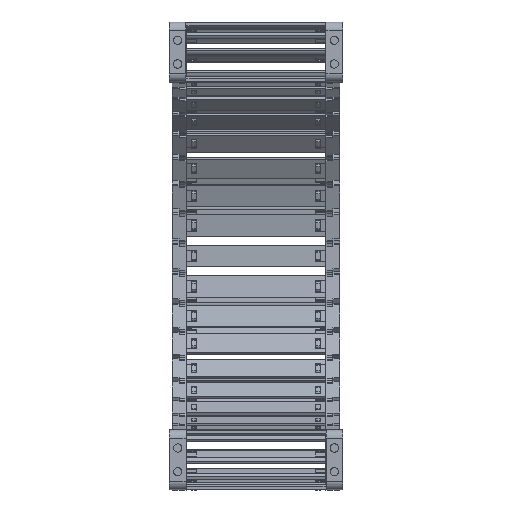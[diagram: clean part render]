
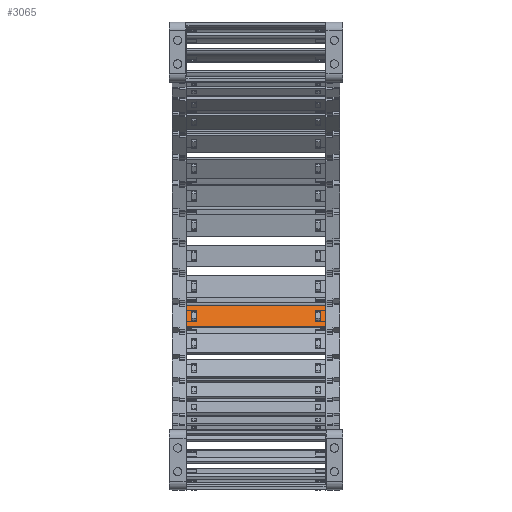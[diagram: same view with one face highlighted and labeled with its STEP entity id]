
A CAD part, left-side view. The second image highlights one B-rep face of the part: STEP entity #3065.
In plain terms, the highlighted planar face has unit normal (-0.94, 0, 0.342) as drawn and (0, 1, 0) by its records, which use the part's own axes.
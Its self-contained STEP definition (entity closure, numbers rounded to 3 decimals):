
#2485=DIRECTION('',(0.,0.,1.));
#2486=VECTOR('',#2485,15.8);
#2487=CARTESIAN_POINT('',(85.74,1.5,-7.9));
#2488=LINE('',#2487,#2486);
#2489=DIRECTION('',(-1.,0.,0.));
#2490=VECTOR('',#2489,100.5);
#2491=CARTESIAN_POINT('',(85.74,1.5,7.9));
#2492=LINE('',#2491,#2490);
#2493=DIRECTION('',(0.,0.,-1.));
#2494=VECTOR('',#2493,15.8);
#2495=CARTESIAN_POINT('',(-14.76,1.5,7.9));
#2496=LINE('',#2495,#2494);
#2497=DIRECTION('',(1.,0.,0.));
#2498=VECTOR('',#2497,3.648);
#2499=CARTESIAN_POINT('',(78.122,1.5,4.075));
#2500=LINE('',#2499,#2498);
#2501=DIRECTION('',(0.,0.,-1.));
#2502=VECTOR('',#2501,8.15);
#2503=CARTESIAN_POINT('',(81.77,1.5,4.075));
#2504=LINE('',#2503,#2502);
#2505=DIRECTION('',(-1.,0.,0.));
#2506=VECTOR('',#2505,3.648);
#2507=CARTESIAN_POINT('',(81.77,1.5,-4.075));
#2508=LINE('',#2507,#2506);
#2509=DIRECTION('',(0.,0.,-1.));
#2510=VECTOR('',#2509,8.15);
#2511=CARTESIAN_POINT('',(-7.142,1.5,4.075));
#2512=LINE('',#2511,#2510);
#2513=DIRECTION('',(-1.,0.,0.));
#2514=VECTOR('',#2513,3.648);
#2515=CARTESIAN_POINT('',(-7.142,1.5,-4.075));
#2516=LINE('',#2515,#2514);
#2517=DIRECTION('',(0.,0.,1.));
#2518=VECTOR('',#2517,8.15);
#2519=CARTESIAN_POINT('',(-10.79,1.5,-4.075));
#2520=LINE('',#2519,#2518);
#2521=DIRECTION('',(1.,0.,0.));
#2522=VECTOR('',#2521,3.648);
#2523=CARTESIAN_POINT('',(-10.79,1.5,4.075));
#2524=LINE('',#2523,#2522);
#2529=DIRECTION('',(-1.,0.,0.));
#2530=VECTOR('',#2529,100.5);
#2531=CARTESIAN_POINT('',(85.74,1.5,-7.9));
#2532=LINE('',#2531,#2530);
#2650=DIRECTION('',(0.,0.,-1.));
#2651=VECTOR('',#2650,8.15);
#2652=CARTESIAN_POINT('',(78.122,1.5,4.075));
#2653=LINE('',#2652,#2651);
#2835=CARTESIAN_POINT('',(81.77,1.5,4.075));
#2836=VERTEX_POINT('',#2835);
#2837=CARTESIAN_POINT('',(78.122,1.5,4.075));
#2838=VERTEX_POINT('',#2837);
#2879=CARTESIAN_POINT('',(78.122,1.5,-4.075));
#2880=VERTEX_POINT('',#2879);
#2881=CARTESIAN_POINT('',(81.77,1.5,-4.075));
#2882=VERTEX_POINT('',#2881);
#2883=CARTESIAN_POINT('',(85.74,1.5,7.9));
#2885=VERTEX_POINT('',#2883);
#2887=CARTESIAN_POINT('',(85.74,1.5,-7.9));
#2888=VERTEX_POINT('',#2887);
#2911=CARTESIAN_POINT('',(-7.142,1.5,4.075));
#2912=CARTESIAN_POINT('',(-7.142,1.5,-4.075));
#2913=VERTEX_POINT('',#2911);
#2914=VERTEX_POINT('',#2912);
#2915=CARTESIAN_POINT('',(-10.79,1.5,-4.075));
#2916=VERTEX_POINT('',#2915);
#2917=CARTESIAN_POINT('',(-10.79,1.5,4.075));
#2918=VERTEX_POINT('',#2917);
#2919=CARTESIAN_POINT('',(-14.76,1.5,7.9));
#2920=VERTEX_POINT('',#2919);
#2923=CARTESIAN_POINT('',(-14.76,1.5,-7.9));
#2924=VERTEX_POINT('',#2923);
#3034=CARTESIAN_POINT('',(117.48,1.5,10.061));
#3035=DIRECTION('',(0.,-1.,0.));
#3036=DIRECTION('',(0.,0.,-1.));
#3037=AXIS2_PLACEMENT_3D('',#3034,#3035,#3036);
#3038=PLANE('',#3037);
#3039=ORIENTED_EDGE('',*,*,#2973,.T.);
#3040=ORIENTED_EDGE('',*,*,#2999,.T.);
#3041=ORIENTED_EDGE('',*,*,#3012,.T.);
#3043=ORIENTED_EDGE('',*,*,#3042,.F.);
#3044=EDGE_LOOP('',(#3039,#3040,#3041,#3043));
#3045=FACE_OUTER_BOUND('',#3044,.F.);
#3047=ORIENTED_EDGE('',*,*,#3046,.F.);
#3048=ORIENTED_EDGE('',*,*,#2936,.T.);
#3050=ORIENTED_EDGE('',*,*,#3049,.T.);
#3052=ORIENTED_EDGE('',*,*,#3051,.T.);
#3053=EDGE_LOOP('',(#3047,#3048,#3050,#3052));
#3054=FACE_BOUND('',#3053,.F.);
#3056=ORIENTED_EDGE('',*,*,#3055,.T.);
#3058=ORIENTED_EDGE('',*,*,#3057,.T.);
#3060=ORIENTED_EDGE('',*,*,#3059,.T.);
#3062=ORIENTED_EDGE('',*,*,#3061,.T.);
#3063=EDGE_LOOP('',(#3056,#3058,#3060,#3062));
#3064=FACE_BOUND('',#3063,.F.);
#3065=ADVANCED_FACE('',(#3045,#3054,#3064),#3038,.F.);
#2936=EDGE_CURVE('',#2838,#2836,#2500,.T.);
#2973=EDGE_CURVE('',#2888,#2885,#2488,.T.);
#2999=EDGE_CURVE('',#2885,#2920,#2492,.T.);
#3012=EDGE_CURVE('',#2920,#2924,#2496,.T.);
#3042=EDGE_CURVE('',#2888,#2924,#2532,.T.);
#3046=EDGE_CURVE('',#2838,#2880,#2653,.T.);
#3049=EDGE_CURVE('',#2836,#2882,#2504,.T.);
#3051=EDGE_CURVE('',#2882,#2880,#2508,.T.);
#3055=EDGE_CURVE('',#2913,#2914,#2512,.T.);
#3057=EDGE_CURVE('',#2914,#2916,#2516,.T.);
#3059=EDGE_CURVE('',#2916,#2918,#2520,.T.);
#3061=EDGE_CURVE('',#2918,#2913,#2524,.T.);
